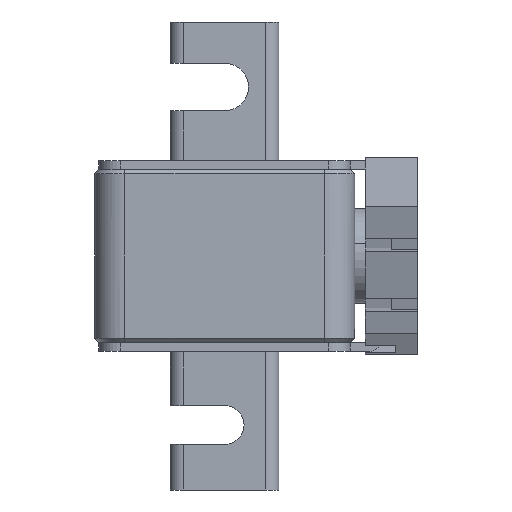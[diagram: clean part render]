
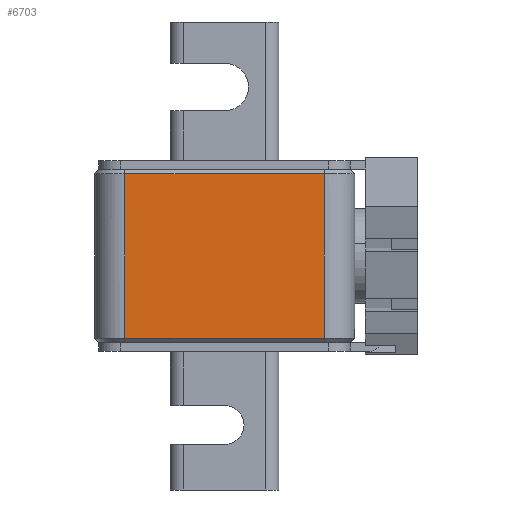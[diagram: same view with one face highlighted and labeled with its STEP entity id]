
A CAD part, left-side view. The second image highlights one B-rep face of the part: STEP entity #6703.
In plain terms, the highlighted planar face has unit normal (-1, 0, 0).
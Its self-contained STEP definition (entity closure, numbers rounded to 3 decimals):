
#162 = CARTESIAN_POINT ( 'NONE',  ( -30., 23., 19. ) ) ;
#479 = DIRECTION ( 'NONE',  ( -1., 0., 0. ) ) ;
#552 = CARTESIAN_POINT ( 'NONE',  ( -30., -23., 19. ) ) ;
#1372 = CARTESIAN_POINT ( 'NONE',  ( -30., 23., 19. ) ) ;
#1599 = VERTEX_POINT ( 'NONE', #1623 ) ;
#1623 = CARTESIAN_POINT ( 'NONE',  ( -30., -23., -19. ) ) ;
#1785 = VECTOR ( 'NONE', #14490, 1000. ) ;
#1936 = ORIENTED_EDGE ( 'NONE', *, *, #9565, .T. ) ;
#2177 = B_SPLINE_CURVE_WITH_KNOTS ( 'NONE', 3,
 ( #9138, #4247, #4298, #15687 ),
 .UNSPECIFIED., .F., .F.,
 ( 4, 4 ),
 ( 0., 1. ),
 .UNSPECIFIED. ) ;
#2820 = CARTESIAN_POINT ( 'NONE',  ( -30., -23., 19. ) ) ;
#3343 = EDGE_CURVE ( 'NONE', #14431, #1599, #3763, .T. ) ;
#3763 = LINE ( 'NONE', #4407, #1785 ) ;
#4247 = CARTESIAN_POINT ( 'NONE',  ( -30., -7.667, -19. ) ) ;
#4298 = CARTESIAN_POINT ( 'NONE',  ( -30., 7.667, -19. ) ) ;
#4407 = CARTESIAN_POINT ( 'NONE',  ( -30., -23., 19. ) ) ;
#4855 = ORIENTED_EDGE ( 'NONE', *, *, #3343, .F. ) ;
#5075 = LINE ( 'NONE', #9339, #13793 ) ;
#5800 = DIRECTION ( 'NONE',  ( 0., 0., -1. ) ) ;
#6350 = B_SPLINE_CURVE_WITH_KNOTS ( 'NONE', 3,
 ( #162, #8919, #15145, #2820 ),
 .UNSPECIFIED., .F., .F.,
 ( 4, 4 ),
 ( 0., 1. ),
 .UNSPECIFIED. ) ;
#6527 = AXIS2_PLACEMENT_3D ( 'NONE', #12797, #479, #11542 ) ;
#6703 = ADVANCED_FACE ( 'NONE', ( #15610 ), #11484, .T. ) ;
#8919 = CARTESIAN_POINT ( 'NONE',  ( -30., 7.667, 19. ) ) ;
#9138 = CARTESIAN_POINT ( 'NONE',  ( -30., -23., -19. ) ) ;
#9339 = CARTESIAN_POINT ( 'NONE',  ( -30., 23., 19. ) ) ;
#9392 = EDGE_CURVE ( 'NONE', #14393, #14431, #6350, .T. ) ;
#9565 = EDGE_CURVE ( 'NONE', #14393, #13985, #5075, .T. ) ;
#9670 = ORIENTED_EDGE ( 'NONE', *, *, #9392, .F. ) ;
#10173 = CARTESIAN_POINT ( 'NONE',  ( -30., 23., -19. ) ) ;
#11064 = ORIENTED_EDGE ( 'NONE', *, *, #14448, .F. ) ;
#11484 = PLANE ( 'NONE',  #6527 ) ;
#11542 = DIRECTION ( 'NONE',  ( 0., 0., 1. ) ) ;
#12797 = CARTESIAN_POINT ( 'NONE',  ( -30., 30., -20. ) ) ;
#13412 = EDGE_LOOP ( 'NONE', ( #1936, #11064, #4855, #9670 ) ) ;
#13793 = VECTOR ( 'NONE', #5800, 1000. ) ;
#13985 = VERTEX_POINT ( 'NONE', #10173 ) ;
#14393 = VERTEX_POINT ( 'NONE', #1372 ) ;
#14431 = VERTEX_POINT ( 'NONE', #552 ) ;
#14448 = EDGE_CURVE ( 'NONE', #1599, #13985, #2177, .T. ) ;
#14490 = DIRECTION ( 'NONE',  ( 0., 0., -1. ) ) ;
#15145 = CARTESIAN_POINT ( 'NONE',  ( -30., -7.667, 19. ) ) ;
#15610 = FACE_OUTER_BOUND ( 'NONE', #13412, .T. ) ;
#15687 = CARTESIAN_POINT ( 'NONE',  ( -30., 23., -19. ) ) ;
